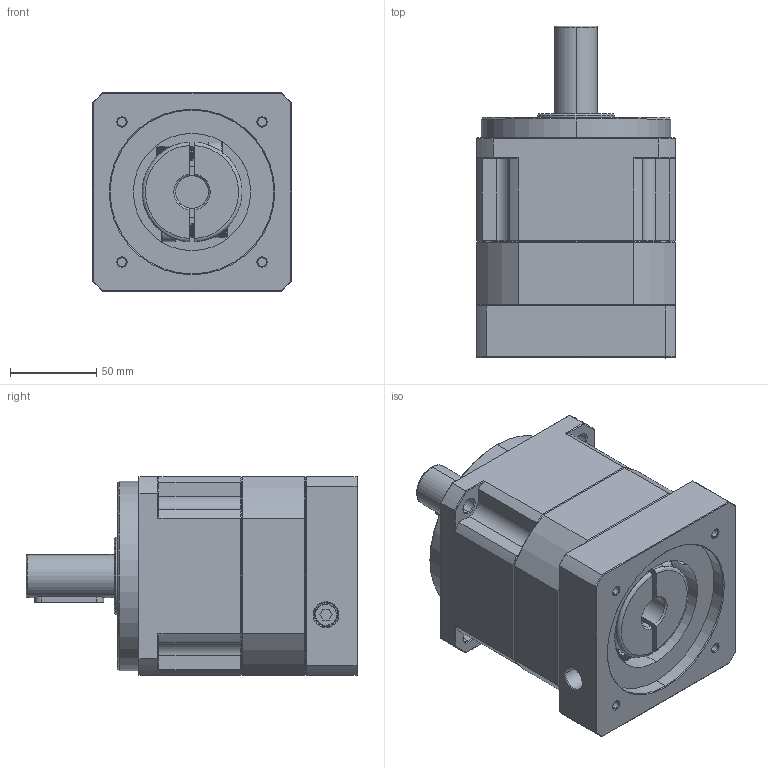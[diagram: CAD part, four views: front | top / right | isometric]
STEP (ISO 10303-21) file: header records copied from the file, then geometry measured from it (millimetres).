
FILE_DESCRIPTION (( 'STEP AP214' ), '1' );
FILE_NAME ('ZPB115-D25-L1-P1-19-95-115-M6.step', '2024-06-11T19:26:35', ( 'Windows 蚚誧' ), ( 'Organization' ), 'SwSTEP 2.0', 'SolidWorks 2016', '' );
FILE_SCHEMA (( 'AUTOMOTIVE_DESIGN' ));
Length unit declared in the file: millimetre
Products named in the file (1): ZPB115-D25-L1-P1-19-95-115-M6
Bounding box: 115 x 192.5 x 115 mm (x, y, z)
Surface area: 124327.2 mm2 (no closed solid volume)
Topology: 0 solids, 28 shells, 1805 faces, 4931 edges, 3184 vertices
Faces by surface type: plane 919, bspline 381, cone 266, cylinder 239
Full cylindrical faces by diameter (mm): 10.2 x4
Entity records: 97188 total; most frequent: CARTESIAN_POINT 48767, ORIENTED_EDGE 9664, DIRECTION 7378, EDGE_CURVE 4841, LINE 3144, VECTOR 3144, VERTEX_POINT 3120, AXIS2_PLACEMENT_3D 2117
